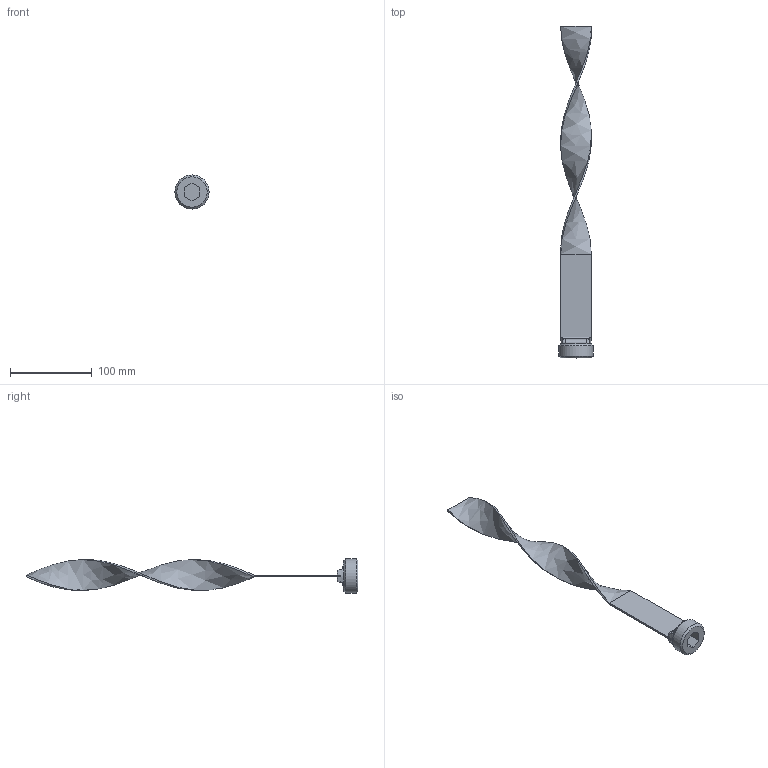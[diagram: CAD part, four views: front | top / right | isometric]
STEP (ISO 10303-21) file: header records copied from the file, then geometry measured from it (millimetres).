
FILE_DESCRIPTION(/* description */ (''),/* implementation_level */ '2;1');
FILE_NAME(/* name */ 'C:/Users/drich/Desktop/TB114X16 v1.step',/* time_stamp */ '2020-01-14T09:05:14-06:00',/* author */ (''),/* organization */ (''),/* preprocessor_version */ 'ST-DEVELOPER v18',/* originating_system */ 'Autodesk Translation Framework v8.12.0.6',/* authorisation */ '');
FILE_SCHEMA (('AUTOMOTIVE_DESIGN { 1 0 10303 214 3 1 1 }'));
Length unit declared in the file: inch
Products named in the file (1): TB114X16
Bounding box: 41.73 x 406.4 x 41.73 mm (x, y, z)
Volume: 56678.2 mm3; surface area: 37482.3 mm2
Topology: 2 solids, 2 shells, 46 faces, 118 edges, 77 vertices
Faces by surface type: plane 21, cylinder 8, bspline 8, torus 7, cone 2
Full cylindrical faces by diameter (mm): 36.474 x1, 41.73 x1
Entity records: 2078 total; most frequent: CARTESIAN_POINT 961, ORIENTED_EDGE 236, DIRECTION 204, EDGE_CURVE 118, VERTEX_POINT 77, AXIS2_PLACEMENT_3D 75, LINE 54, VECTOR 54
